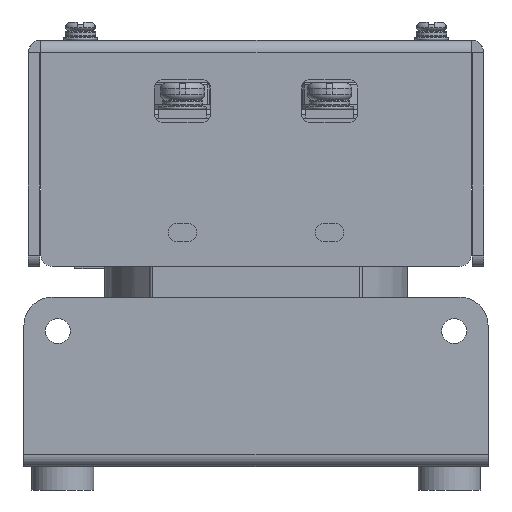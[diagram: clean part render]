
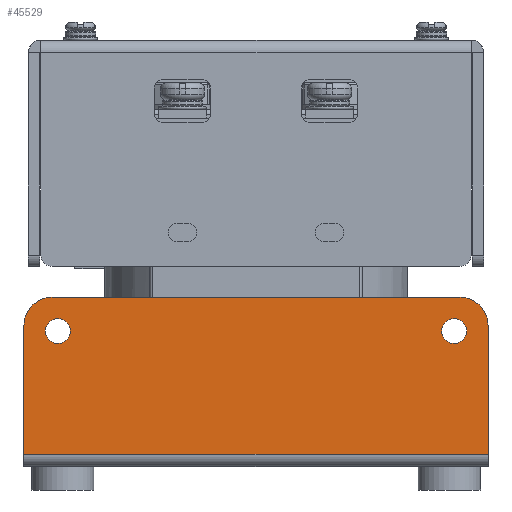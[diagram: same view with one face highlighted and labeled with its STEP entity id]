
A CAD part, front view. The second image highlights one B-rep face of the part: STEP entity #45529.
In plain terms, the highlighted planar face has unit normal (0, -1, 0).
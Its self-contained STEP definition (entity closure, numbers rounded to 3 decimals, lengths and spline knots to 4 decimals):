
#576=FACE_BOUND('',#16003,.T.);
#577=FACE_BOUND('',#16004,.T.);
#858=PLANE('',#48284);
#2747=LINE('',#65297,#7883);
#2753=LINE('',#65321,#7889);
#2767=LINE('',#65363,#7903);
#2768=LINE('',#65367,#7904);
#7883=VECTOR('',#52554,0.3937);
#7889=VECTOR('',#52578,0.3937);
#7903=VECTOR('',#52622,0.3937);
#7904=VECTOR('',#52629,0.3937);
#13463=FACE_OUTER_BOUND('',#16002,.T.);
#16002=EDGE_LOOP('',(#31962,#31963,#31964,#31965,#31966,#31967));
#16003=EDGE_LOOP('',(#31968,#31969));
#16004=EDGE_LOOP('',(#31970,#31971));
#18802=CIRCLE('',#48250,0.1969);
#18809=CIRCLE('',#48260,0.1969);
#18810=CIRCLE('',#48263,0.0866);
#18811=CIRCLE('',#48264,0.0866);
#18812=CIRCLE('',#48266,0.0866);
#18813=CIRCLE('',#48267,0.0866);
#20180=VERTEX_POINT('',#65284);
#20181=VERTEX_POINT('',#65285);
#20185=VERTEX_POINT('',#65295);
#20193=VERTEX_POINT('',#65315);
#20194=VERTEX_POINT('',#65319);
#20195=VERTEX_POINT('',#65323);
#20196=VERTEX_POINT('',#65325);
#20197=VERTEX_POINT('',#65329);
#20198=VERTEX_POINT('',#65331);
#20207=VERTEX_POINT('',#65362);
#24756=EDGE_CURVE('',#20180,#20181,#18802,.T.);
#24762=EDGE_CURVE('',#20185,#20180,#2747,.T.);
#24771=EDGE_CURVE('',#20193,#20185,#18809,.T.);
#24774=EDGE_CURVE('',#20194,#20193,#2753,.T.);
#24776=EDGE_CURVE('',#20196,#20195,#18810,.T.);
#24777=EDGE_CURVE('',#20195,#20196,#18811,.T.);
#24779=EDGE_CURVE('',#20198,#20197,#18812,.T.);
#24780=EDGE_CURVE('',#20197,#20198,#18813,.T.);
#24795=EDGE_CURVE('',#20194,#20207,#2767,.T.);
#24798=EDGE_CURVE('',#20181,#20207,#2768,.T.);
#31962=ORIENTED_EDGE('',*,*,#24756,.F.);
#31963=ORIENTED_EDGE('',*,*,#24762,.F.);
#31964=ORIENTED_EDGE('',*,*,#24771,.F.);
#31965=ORIENTED_EDGE('',*,*,#24774,.F.);
#31966=ORIENTED_EDGE('',*,*,#24795,.T.);
#31967=ORIENTED_EDGE('',*,*,#24798,.F.);
#31968=ORIENTED_EDGE('',*,*,#24776,.T.);
#31969=ORIENTED_EDGE('',*,*,#24777,.T.);
#31970=ORIENTED_EDGE('',*,*,#24779,.T.);
#31971=ORIENTED_EDGE('',*,*,#24780,.T.);
#45529=ADVANCED_FACE('',(#13463,#576,#577),#858,.F.);
#48250=AXIS2_PLACEMENT_3D('',#65286,#52544,#52545);
#48260=AXIS2_PLACEMENT_3D('',#65316,#52572,#52573);
#48263=AXIS2_PLACEMENT_3D('',#65326,#52582,#52583);
#48264=AXIS2_PLACEMENT_3D('',#65327,#52584,#52585);
#48266=AXIS2_PLACEMENT_3D('',#65332,#52589,#52590);
#48267=AXIS2_PLACEMENT_3D('',#65333,#52591,#52592);
#48284=AXIS2_PLACEMENT_3D('',#65374,#52640,#52641);
#52544=DIRECTION('center_axis',(0.,1.,0.));
#52545=DIRECTION('ref_axis',(0.707,0.,0.707));
#52554=DIRECTION('',(1.,0.,0.));
#52572=DIRECTION('center_axis',(0.,1.,0.));
#52573=DIRECTION('ref_axis',(-0.707,0.,0.707));
#52578=DIRECTION('',(0.,0.,1.));
#52582=DIRECTION('center_axis',(0.,1.,0.));
#52583=DIRECTION('ref_axis',(1.,0.,0.));
#52584=DIRECTION('center_axis',(0.,1.,0.));
#52585=DIRECTION('ref_axis',(1.,0.,0.));
#52589=DIRECTION('center_axis',(0.,1.,0.));
#52590=DIRECTION('ref_axis',(1.,0.,0.));
#52591=DIRECTION('center_axis',(0.,1.,0.));
#52592=DIRECTION('ref_axis',(1.,0.,0.));
#52622=DIRECTION('',(1.,0.,0.));
#52629=DIRECTION('',(0.,0.,-1.));
#52640=DIRECTION('center_axis',(0.,1.,0.));
#52641=DIRECTION('ref_axis',(1.,0.,0.));
#65284=CARTESIAN_POINT('',(1.4173,-3.9764,0.8661));
#65285=CARTESIAN_POINT('',(1.6142,-3.9764,0.6693));
#65286=CARTESIAN_POINT('Origin',(1.4173,-3.9764,0.6693));
#65295=CARTESIAN_POINT('',(-1.4173,-3.9764,0.8661));
#65297=CARTESIAN_POINT('',(-1.6142,-3.9764,0.8661));
#65315=CARTESIAN_POINT('',(-1.6142,-3.9764,0.6693));
#65316=CARTESIAN_POINT('Origin',(-1.4173,-3.9764,0.6693));
#65319=CARTESIAN_POINT('',(-1.6142,-3.9764,-0.2283));
#65321=CARTESIAN_POINT('',(-1.6142,-3.9764,-0.2283));
#65323=CARTESIAN_POINT('',(-1.4646,-3.9764,0.6299));
#65325=CARTESIAN_POINT('',(-1.2913,-3.9764,0.6299));
#65326=CARTESIAN_POINT('Origin',(-1.378,-3.9764,0.6299));
#65327=CARTESIAN_POINT('Origin',(-1.378,-3.9764,0.6299));
#65329=CARTESIAN_POINT('',(1.2913,-3.9764,0.6299));
#65331=CARTESIAN_POINT('',(1.4646,-3.9764,0.6299));
#65332=CARTESIAN_POINT('Origin',(1.378,-3.9764,0.6299));
#65333=CARTESIAN_POINT('Origin',(1.378,-3.9764,0.6299));
#65362=CARTESIAN_POINT('',(1.6142,-3.9764,-0.2283));
#65363=CARTESIAN_POINT('',(0.,-3.9764,-0.2283));
#65367=CARTESIAN_POINT('',(1.6142,-3.9764,-0.2951));
#65374=CARTESIAN_POINT('Origin',(0.,-3.9764,
0.2855));
